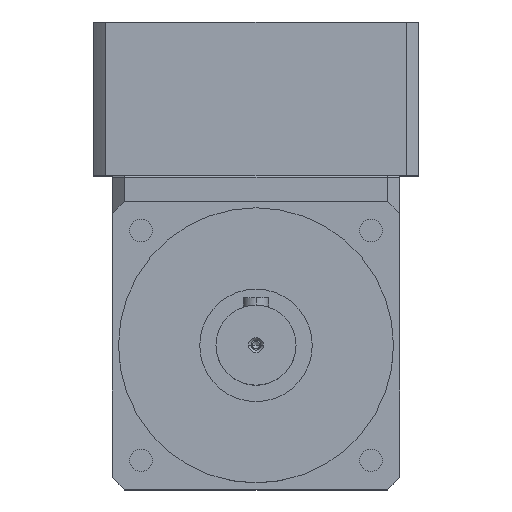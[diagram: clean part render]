
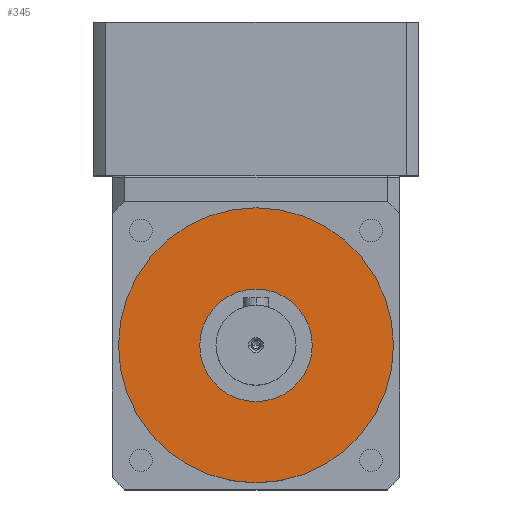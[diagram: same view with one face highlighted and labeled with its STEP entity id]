
A CAD part, top view. The second image highlights one B-rep face of the part: STEP entity #345.
In plain terms, the highlighted planar face has unit normal (0, 0, 1).
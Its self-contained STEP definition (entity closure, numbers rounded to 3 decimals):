
#345 = ADVANCED_FACE ( 'NONE', ( #4733, #3728 ), #3275, .F. ) ;
#537 = CARTESIAN_POINT ( 'NONE',  ( 0., 22.5, 12. ) ) ;
#689 = AXIS2_PLACEMENT_3D ( 'NONE', #3281, #3300, #3311 ) ;
#810 = DIRECTION ( 'NONE',  ( 0., 0., -1. ) ) ;
#1113 = CIRCLE ( 'NONE', #1782, 55. ) ;
#1279 = EDGE_CURVE ( 'NONE', #2028, #1425, #3033, .T. ) ;
#1305 = DIRECTION ( 'NONE',  ( 0., 0., -1. ) ) ;
#1344 = CIRCLE ( 'NONE', #4745, 22.5 ) ;
#1425 = VERTEX_POINT ( 'NONE', #2001 ) ;
#1782 = AXIS2_PLACEMENT_3D ( 'NONE', #4567, #2055, #4990 ) ;
#1886 = DIRECTION ( 'NONE',  ( 0., 0., -1. ) ) ;
#1905 = EDGE_LOOP ( 'NONE', ( #2899, #4986 ) ) ;
#1914 = CARTESIAN_POINT ( 'NONE',  ( 0., 0., 12. ) ) ;
#1926 = DIRECTION ( 'NONE',  ( -1., 0., 0. ) ) ;
#2001 = CARTESIAN_POINT ( 'NONE',  ( 55., 0., 12. ) ) ;
#2028 = VERTEX_POINT ( 'NONE', #2928 ) ;
#2055 = DIRECTION ( 'NONE',  ( 0., 0., -1. ) ) ;
#2178 = AXIS2_PLACEMENT_3D ( 'NONE', #3829, #1305, #4247 ) ;
#2442 = CARTESIAN_POINT ( 'NONE',  ( 0., -22.5, 12. ) ) ;
#2571 = VERTEX_POINT ( 'NONE', #2442 ) ;
#2899 = ORIENTED_EDGE ( 'NONE', *, *, #5018, .T. ) ;
#2928 = CARTESIAN_POINT ( 'NONE',  ( -55., 0., 12. ) ) ;
#3033 = CIRCLE ( 'NONE', #4048, 55. ) ;
#3246 = EDGE_CURVE ( 'NONE', #2571, #4791, #1344, .T. ) ;
#3275 = PLANE ( 'NONE',  #689 ) ;
#3281 = CARTESIAN_POINT ( 'NONE',  ( 55.66, -55.66, 12. ) ) ;
#3300 = DIRECTION ( 'NONE',  ( 0., 0., -1. ) ) ;
#3311 = DIRECTION ( 'NONE',  ( -1., 0., 0. ) ) ;
#3361 = CARTESIAN_POINT ( 'NONE',  ( 0., 0., 12. ) ) ;
#3728 = FACE_OUTER_BOUND ( 'NONE', #4598, .T. ) ;
#3765 = DIRECTION ( 'NONE',  ( 0., 1., 0. ) ) ;
#3829 = CARTESIAN_POINT ( 'NONE',  ( 0., 0., 12. ) ) ;
#4048 = AXIS2_PLACEMENT_3D ( 'NONE', #1914, #1886, #1926 ) ;
#4166 = EDGE_CURVE ( 'NONE', #1425, #2028, #1113, .T. ) ;
#4247 = DIRECTION ( 'NONE',  ( 0., 1., 0. ) ) ;
#4549 = ORIENTED_EDGE ( 'NONE', *, *, #4166, .F. ) ;
#4567 = CARTESIAN_POINT ( 'NONE',  ( 0., 0., 12. ) ) ;
#4598 = EDGE_LOOP ( 'NONE', ( #4699, #4549 ) ) ;
#4618 = CIRCLE ( 'NONE', #2178, 22.5 ) ;
#4699 = ORIENTED_EDGE ( 'NONE', *, *, #1279, .F. ) ;
#4733 = FACE_BOUND ( 'NONE', #1905, .T. ) ;
#4745 = AXIS2_PLACEMENT_3D ( 'NONE', #3361, #810, #3765 ) ;
#4791 = VERTEX_POINT ( 'NONE', #537 ) ;
#4986 = ORIENTED_EDGE ( 'NONE', *, *, #3246, .T. ) ;
#4990 = DIRECTION ( 'NONE',  ( -1., 0., 0. ) ) ;
#5018 = EDGE_CURVE ( 'NONE', #4791, #2571, #4618, .T. ) ;
